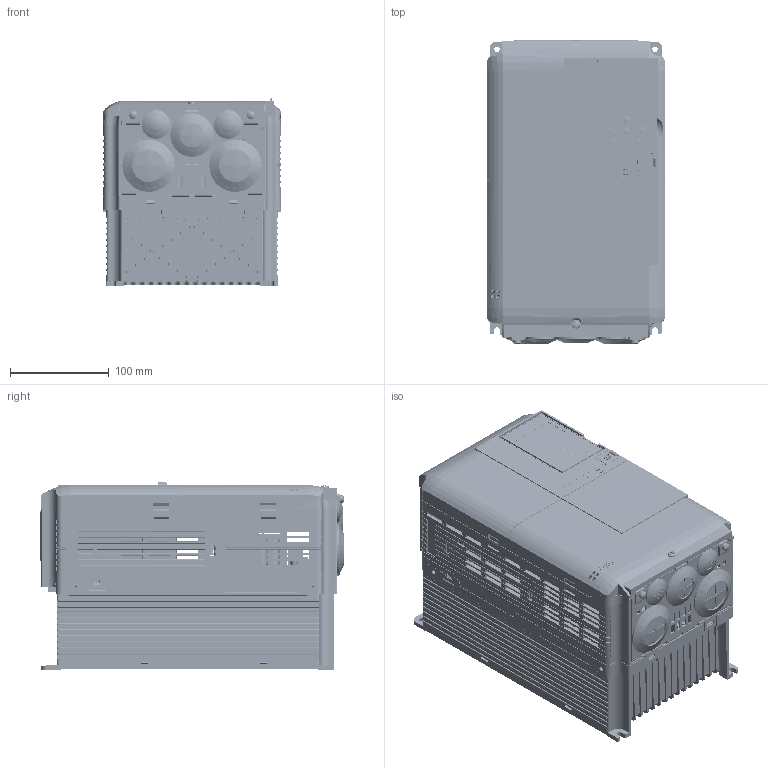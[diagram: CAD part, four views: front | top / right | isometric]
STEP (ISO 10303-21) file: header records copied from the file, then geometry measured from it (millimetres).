
FILE_DESCRIPTION((''),'2;1');
FILE_NAME('71616-AA4A0038FAA_ASM','2010-02-19T',('jc'),('YASKAWA ELECTRIC CORCORATION'),'PRO/ENGINEER BY PARAMETRIC TECHNOLOGY CORPORATION, 2008490','PRO/ENGINEER BY PARAMETRIC TECHNOLOGY CORPORATION, 2008490','');
FILE_SCHEMA(('CONFIG_CONTROL_DESIGN'));
Length unit declared in the file: millimetre
Products named in the file (105): LAY_AA4A0038FAA; HSGT21107_1; HSGT21107_ASM; ISCT21010; CVST31322; YPHT31614-1B_AF0; TBET31181_1_1_AF1; TBET31181_1_2_AF9; TBET31181_1_3_AF2; TBET31181_1_3_AF3; TBET31181_1_2_AF10; TBET31181_1_2_AF11; TBET31181_1_2_AF12; TBET31181_1_2_AF13; TBET31181_1_2_AF14; TBET31181_1_2_AF15; TBET31181_1_2_AF16; TBET31181_1_2_AF17; TBET31181_1_5_AF2; TBET31181_1_6_AF2; TBET31181_1_6_AF3; TBET31181_1_4_AF6; TBET31181_1_4_AF7; TBET31181_1_4_AF8; TBET31181_1_7_AF10; TBET31181_1_7_AF11; TBET31181_1_7_AF12; TBET31181_1_7_AF13; TBET31181_1_7_AF14; TBET31181_1_AF1_ASM; TBET31181_4_AF1; TBET31181_2_AF9; TBET31181_3_AF2; TBET31181_3_AF3; TBET31181_2_AF10; TBET31181_2_AF11; TBET31181_2_AF12; TBET31181_2_AF13; TBET31181_2_AF14; TBET31181_2_AF15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
Assembly tree (110 placements, depth 5):
  71616-AA4A0038FAA_ASM
    LAY_AA4A0038FAA
    HSGT21107_ASM
      HSGT21107_1
    ISCT21010
    CVST31322
    ETP712180_ASM
      YPHT31614-1B_AF0
      TBET31181_AF1_ASM
        TBET31181_1_AF1_ASM
          TBET31181_1_1_AF1
          TBET31181_1_2_AF9
          TBET31181_1_3_AF2
          TBET31181_1_3_AF3
          TBET31181_1_2_AF10
          TBET31181_1_2_AF11
          TBET31181_1_2_AF12
          TBET31181_1_2_AF13
          TBET31181_1_2_AF14
          TBET31181_1_2_AF15
          TBET31181_1_2_AF16
          TBET31181_1_2_AF17
          TBET31181_1_5_AF2
          TBET31181_1_6_AF2
          TBET31181_1_6_AF3
          TBET31181_1_4_AF6
          TBET31181_1_4_AF7
          TBET31181_1_4_AF8
          TBET31181_1_7_AF10
          TBET31181_1_7_AF11
          TBET31181_1_7_AF12
          TBET31181_1_7_AF13
          TBET31181_1_7_AF14
        TBET31181_4_AF1
        TBET31181_2_AF9
        TBET31181_3_AF2
        TBET31181_3_AF3
        TBET31181_2_AF10
        TBET31181_2_AF11
        TBET31181_2_AF12
        TBET31181_2_AF13
        TBET31181_2_AF14
        TBET31181_2_AF15
        TBET31181_2_AF16
        TBET31181_2_AF17
    CVST31358
    CVST21162_ASM
      CVST21162_1_AF0
      CVST21162_2_AF3
      CVST21162_2_AF4
      CVST21162_2_AF8
      CVST21162_2_AF5
      CVST21162_2_AF0
      CVST21162_2_AF1
      CVST21162_2_AF2
      CVST21162_2_AF6
      CVST21162_2_AF7
      CVST21162_2_AF9
    CVST31361
    CVST31363
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Bounding box: 180 x 308.4 x 189.89 mm (x, y, z)
Volume: 7122641.1 mm3; surface area: 1169689.4 mm2
Topology: 206 solids, 215 shells, 18501 faces, 50846 edges, 32856 vertices
Faces by surface type: plane 14002, cylinder 2564, cone 730, bspline 430, sphere 363, torus 294, extrusion 118
Entity records: 607734 total; most frequent: CARTESIAN_POINT 142526, ORIENTED_EDGE 100368, DIRECTION 89597, EDGE_CURVE 50184, VECTOR 40573, LINE 40455, VERTEX_POINT 32531, AXIS2_PLACEMENT_3D 24512
